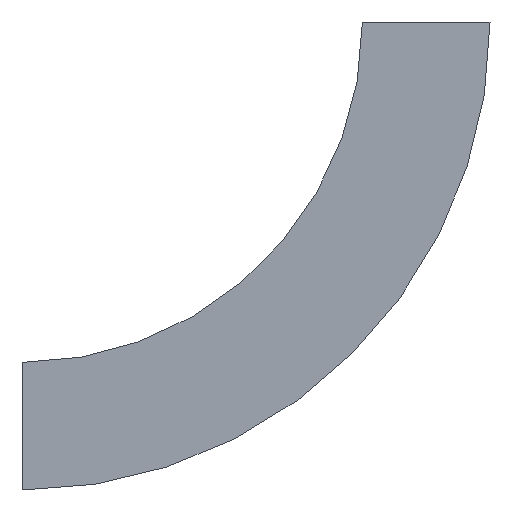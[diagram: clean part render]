
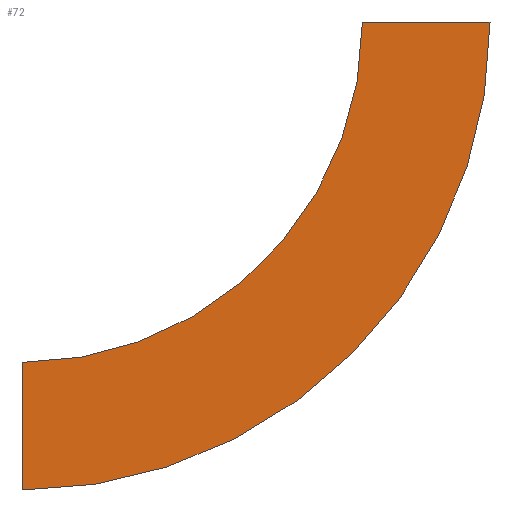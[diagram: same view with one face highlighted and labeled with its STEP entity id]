
A CAD part, left-side view. The second image highlights one B-rep face of the part: STEP entity #72.
In plain terms, the highlighted planar face has unit normal (-1, 0, 0) as drawn and (1, 0, 0) by its records, which use the part's own axes.
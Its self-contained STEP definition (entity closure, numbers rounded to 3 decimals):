
#1 = VECTOR ( 'NONE', #77, 1000. ) ;
#9 = DIRECTION ( 'NONE',  ( 0., 1., 0. ) ) ;
#12 = LINE ( 'NONE', #238, #511 ) ;
#30 = DIRECTION ( 'NONE',  ( 0., -1., 0. ) ) ;
#40 = ORIENTED_EDGE ( 'NONE', *, *, #261, .T. ) ;
#49 = VERTEX_POINT ( 'NONE', #108 ) ;
#72 = ADVANCED_FACE ( 'NONE', ( #378 ), #386, .F. ) ;
#77 = DIRECTION ( 'NONE',  ( 0., 0., 1. ) ) ;
#108 = CARTESIAN_POINT ( 'NONE',  ( 0., -112.5, 0. ) ) ;
#111 = CARTESIAN_POINT ( 'NONE',  ( 0., 0., 0. ) ) ;
#152 = CARTESIAN_POINT ( 'NONE',  ( 0., -112.5, 0. ) ) ;
#160 = CIRCLE ( 'NONE', #460, 300. ) ;
#179 = AXIS2_PLACEMENT_3D ( 'NONE', #152, #193, #343 ) ;
#180 = EDGE_CURVE ( 'NONE', #186, #373, #482, .T. ) ;
#186 = VERTEX_POINT ( 'NONE', #270 ) ;
#193 = DIRECTION ( 'NONE',  ( -1., 0., 0. ) ) ;
#197 = CARTESIAN_POINT ( 'NONE',  ( 0., 300., 0. ) ) ;
#212 = AXIS2_PLACEMENT_3D ( 'NONE', #487, #218, #328 ) ;
#218 = DIRECTION ( 'NONE',  ( 1., 0., 0. ) ) ;
#225 = VERTEX_POINT ( 'NONE', #111 ) ;
#238 = CARTESIAN_POINT ( 'NONE',  ( 0., -112.5, 0. ) ) ;
#261 = EDGE_CURVE ( 'NONE', #49, #186, #545, .T. ) ;
#270 = CARTESIAN_POINT ( 'NONE',  ( 0., 300., -412.5 ) ) ;
#282 = ORIENTED_EDGE ( 'NONE', *, *, #554, .F. ) ;
#310 = CARTESIAN_POINT ( 'NONE',  ( 0., 300., -412.5 ) ) ;
#311 = DIRECTION ( 'NONE',  ( 1., 0., 0. ) ) ;
#328 = DIRECTION ( 'NONE',  ( 0., -1., 0. ) ) ;
#331 = ORIENTED_EDGE ( 'NONE', *, *, #385, .F. ) ;
#343 = DIRECTION ( 'NONE',  ( 0., 0., 1. ) ) ;
#373 = VERTEX_POINT ( 'NONE', #462 ) ;
#378 = FACE_OUTER_BOUND ( 'NONE', #547, .T. ) ;
#385 = EDGE_CURVE ( 'NONE', #49, #225, #12, .T. ) ;
#386 = PLANE ( 'NONE',  #179 ) ;
#460 = AXIS2_PLACEMENT_3D ( 'NONE', #197, #311, #30 ) ;
#462 = CARTESIAN_POINT ( 'NONE',  ( 0., 300., -300. ) ) ;
#482 = LINE ( 'NONE', #310, #1 ) ;
#487 = CARTESIAN_POINT ( 'NONE',  ( 0., 300., 0. ) ) ;
#511 = VECTOR ( 'NONE', #9, 1000. ) ;
#532 = ORIENTED_EDGE ( 'NONE', *, *, #180, .T. ) ;
#545 = CIRCLE ( 'NONE', #212, 412.5 ) ;
#547 = EDGE_LOOP ( 'NONE', ( #282, #331, #40, #532 ) ) ;
#554 = EDGE_CURVE ( 'NONE', #225, #373, #160, .T. ) ;
